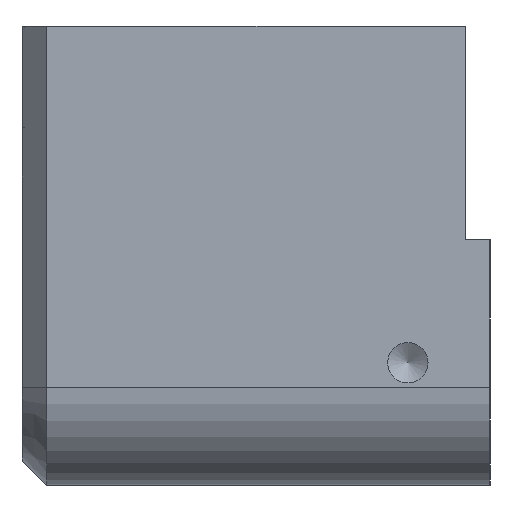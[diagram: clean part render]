
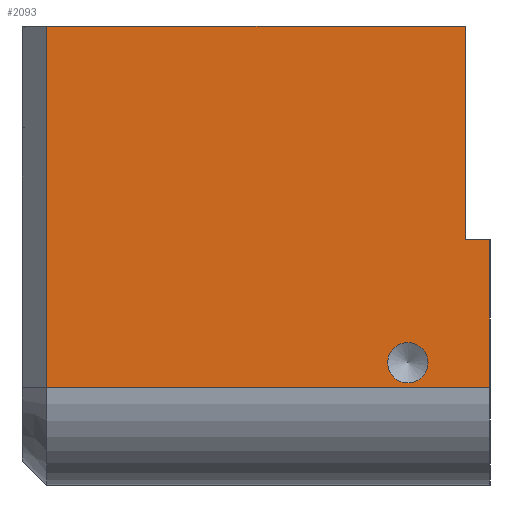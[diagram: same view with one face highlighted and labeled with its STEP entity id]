
A CAD part, left-side view. The second image highlights one B-rep face of the part: STEP entity #2093.
In plain terms, the highlighted planar face has unit normal (-1, 0, 0).
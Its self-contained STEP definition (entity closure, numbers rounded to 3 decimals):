
#31=FACE_BOUND('',#636,.T.);
#59=PLANE('',#2305);
#115=LINE('',#4592,#263);
#164=LINE('',#4997,#312);
#186=LINE('',#5061,#334);
#188=LINE('',#5067,#336);
#200=LINE('',#5106,#348);
#201=LINE('',#5107,#349);
#263=VECTOR('',#2526,10.);
#312=VECTOR('',#2687,10.);
#334=VECTOR('',#2755,10.);
#336=VECTOR('',#2761,10.);
#348=VECTOR('',#2805,10.);
#349=VECTOR('',#2806,10.);
#513=FACE_OUTER_BOUND('',#635,.T.);
#635=EDGE_LOOP('',(#1820,#1821,#1822,#1823,#1824,#1825));
#636=EDGE_LOOP('',(#1826));
#758=CIRCLE('',#2304,1.23);
#929=VERTEX_POINT('',#4589);
#930=VERTEX_POINT('',#4591);
#981=VERTEX_POINT('',#4996);
#1000=VERTEX_POINT('',#5057);
#1002=VERTEX_POINT('',#5065);
#1012=VERTEX_POINT('',#5101);
#1013=VERTEX_POINT('',#5105);
#1171=EDGE_CURVE('',#929,#930,#115,.T.);
#1258=EDGE_CURVE('',#981,#930,#164,.T.);
#1292=EDGE_CURVE('',#1000,#929,#186,.T.);
#1295=EDGE_CURVE('',#1002,#1000,#188,.T.);
#1311=EDGE_CURVE('',#1012,#1012,#758,.T.);
#1313=EDGE_CURVE('',#1013,#1002,#200,.T.);
#1314=EDGE_CURVE('',#1013,#981,#201,.T.);
#1820=ORIENTED_EDGE('',*,*,#1295,.F.);
#1821=ORIENTED_EDGE('',*,*,#1313,.F.);
#1822=ORIENTED_EDGE('',*,*,#1314,.T.);
#1823=ORIENTED_EDGE('',*,*,#1258,.T.);
#1824=ORIENTED_EDGE('',*,*,#1171,.F.);
#1825=ORIENTED_EDGE('',*,*,#1292,.F.);
#1826=ORIENTED_EDGE('',*,*,#1311,.T.);
#2093=ADVANCED_FACE('',(#513,#31),#59,.T.);
#2304=AXIS2_PLACEMENT_3D('',#5102,#2800,#2801);
#2305=AXIS2_PLACEMENT_3D('',#5104,#2803,#2804);
#2526=DIRECTION('',(0.,-1.,0.));
#2687=DIRECTION('',(0.,0.,1.));
#2755=DIRECTION('',(0.,0.,1.));
#2761=DIRECTION('',(0.,1.,0.));
#2800=DIRECTION('center_axis',(1.,0.,0.));
#2801=DIRECTION('ref_axis',(0.,0.,1.));
#2803=DIRECTION('center_axis',(-1.,0.,0.));
#2804=DIRECTION('ref_axis',(0.,1.,0.));
#2805=DIRECTION('',(0.,0.,-1.));
#2806=DIRECTION('',(0.,1.,0.));
#4589=CARTESIAN_POINT('',(-56.,12.75,0.));
#4591=CARTESIAN_POINT('',(-56.,-12.75,0.));
#4592=CARTESIAN_POINT('',(-56.,14.25,0.));
#4996=CARTESIAN_POINT('',(-56.,-12.75,-13.));
#4997=CARTESIAN_POINT('',(-56.,-12.75,-6.5));
#5057=CARTESIAN_POINT('',(-56.,12.75,-22.));
#5061=CARTESIAN_POINT('',(-56.,12.75,0.));
#5065=CARTESIAN_POINT('',(-56.,-14.25,-22.));
#5067=CARTESIAN_POINT('',(-56.,-7.125,-22.));
#5101=CARTESIAN_POINT('',(-56.,-9.25,-21.73));
#5102=CARTESIAN_POINT('Origin',(-56.,-9.25,-20.5));
#5104=CARTESIAN_POINT('Origin',(-56.,-14.25,0.));
#5105=CARTESIAN_POINT('',(-56.,-14.25,-13.));
#5106=CARTESIAN_POINT('',(-56.,-14.25,0.));
#5107=CARTESIAN_POINT('',(-56.,-14.25,-13.));
